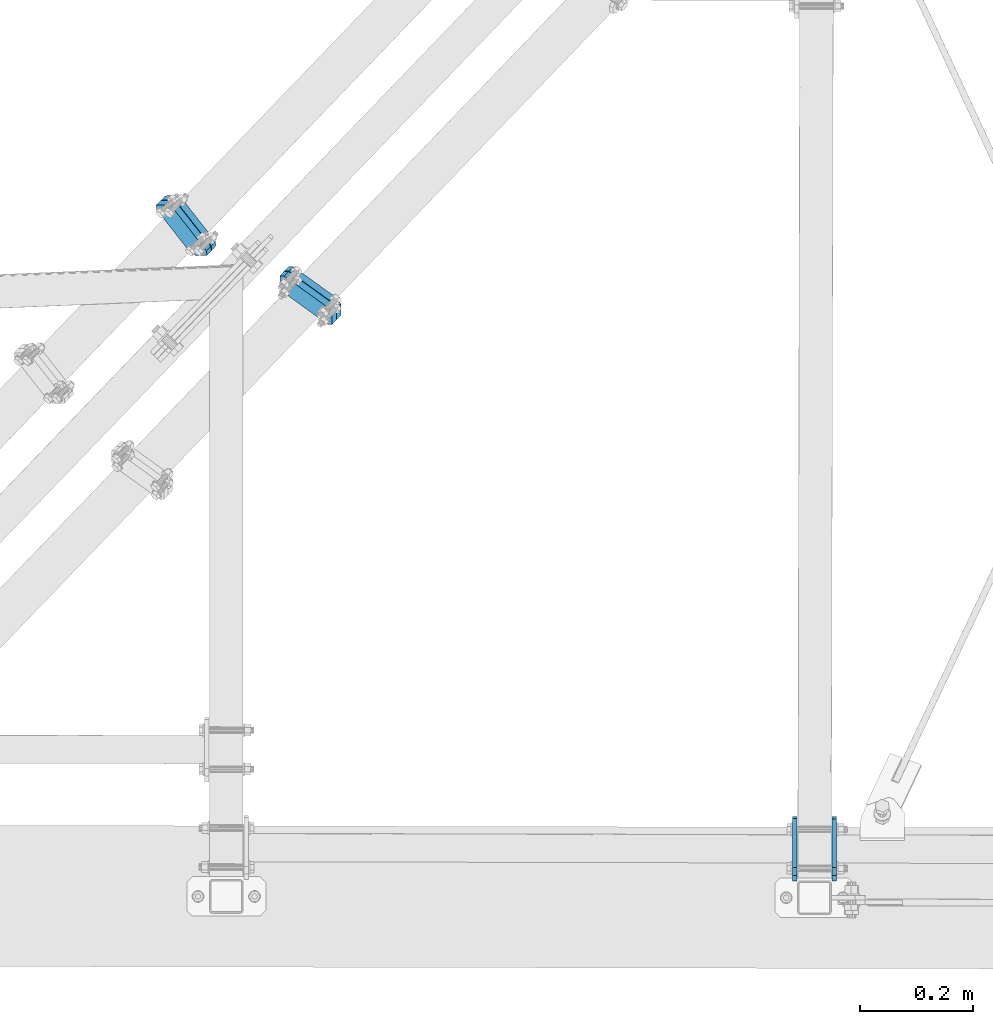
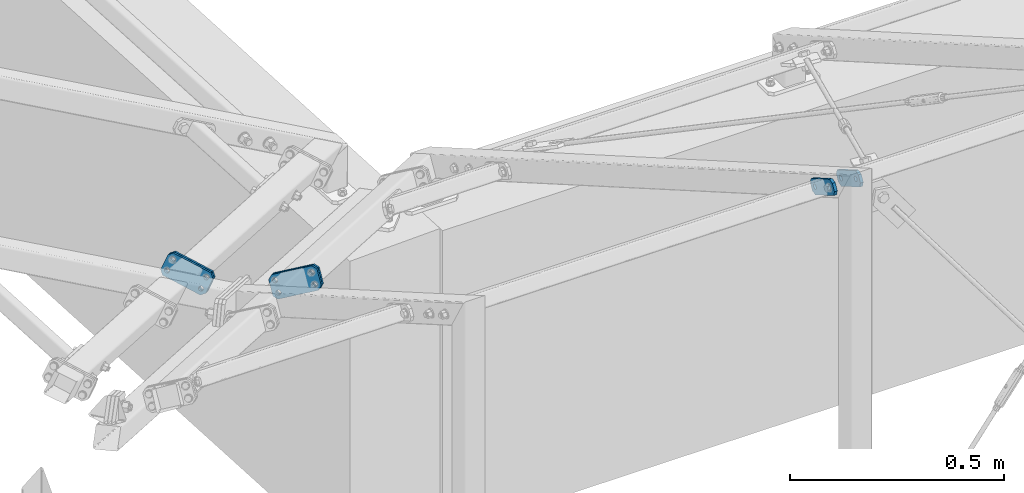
# One storey, part 26 of 288: 6 plates, 44 openings.
"""IFC2X3 building model written with IfcOpenShell, lengths in millimetres."""

from ifc_helpers import new_model, entity, si_unit, converted_unit, point, frame, frame_2d, origin, origin_with_axes, place, context, project, spatial, polyline, circle_curve, line_curve, trimmed, segment, composite_curve, circle, outline, extrude, material, layer, layer_set, element, save


model = new_model("IFC2X3")

# Units and contexts
model_context = context("Model", 3, precision=1e-09, world=origin_with_axes())
ifc_project = project(units=[si_unit("LENGTHUNIT", "METRE", prefix="MILLI"), si_unit("AREAUNIT", "SQUARE_METRE"), si_unit("VOLUMEUNIT", "CUBIC_METRE"), converted_unit("PLANEANGLEUNIT", "DEGREE", entity("IfcPlaneAngleMeasure", 0.01745329), si_unit("PLANEANGLEUNIT", "RADIAN"), dimensions=[0, 0, 0, 0, 0, 0, 0])], contexts=[model_context])

# Site, building, storey
site_placement = place(None, origin_with_axes())
site = spatial("IfcSite", under=ifc_project, at=site_placement, Name="Remont ?wietlik?w nad MC w NCPP w Opolu", CompositionType="ELEMENT")
building_placement = place(site_placement, origin_with_axes())
building = spatial("IfcBuilding", under=site, at=building_placement, Name="Konstrukcja 1", CompositionType="ELEMENT")
storey_placement = place(building_placement, origin_with_axes())
storey = spatial("IfcBuildingStorey", under=building, at=storey_placement, Name="Default Storey", CompositionType="ELEMENT", Elevation=0.0)

# Plate, openings
ifc_material = material(Name="S235")
ifc_layer_1 = layer(ifc_material, 8.0)
ifc_layer_set_1 = layer_set([ifc_layer_1], Name="S235")
plate_1_placement = place(None, frame((1994.145350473, -104.788973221, 1232.698882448), z_axis=(0.999997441, -0.002262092, 1.05e-07), x_axis=(0.001959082, 0.866023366, -0.499999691)))
plate_1 = element("IfcPlate", 1, at=plate_1_placement, inside=storey, material=ifc_layer_set_1, Name="-", ObjectType="-", context=model_context, shape_type="SweptSolid", body=[
    extrude(outline(polyline([(0.0, 0.0), (120.0, 0.0), (120.0, 40.0), (0.0, 40.0), (0.0, 0.0)])), origin_with_axes(), (0.0, 0.0, 1.0), 8.0),
])
opening_1_placement = place(plate_1_placement, frame((0.0, 0.0, -0.01), z_axis=(0.0, 0.0, 1.0), x_axis=(1.0, 0.0, 0.0)))
element("IfcOpeningElement", 2, at=opening_1_placement, cuts=plate_1, ObjectType="Opening", context=model_context, shape_type="SweptSolid", body=[
    extrude(outline(composite_curve([segment(trimmed(line_curve((0.0, 40.0), (0.0, -1.0), 10.0), [point((0.0, 40.0))], [point((0.0, 30.0))], True, "CARTESIAN"), True, "CONTINUOUS"), segment(trimmed(circle_curve(frame_2d((10.0, 30.0), x_axis=(-1.0, 0.0)), 10.0), [point((0.0, 30.0))], [point((10.0, 40.0))], False, "CARTESIAN"), True, "CONTINUOUS"), segment(trimmed(line_curve((10.0, 40.0), (-1.0, 0.0), 10.0), [point((10.0, 40.0))], [point((0.0, 40.0))], True, "CARTESIAN"), True, "CONTINUOUS")], self_intersect=False)), origin(), (0.0, 0.0, 1.0), 8.02),
])
opening_2_placement = place(plate_1_placement, frame((0.0, 0.0, -0.01), z_axis=(0.0, 0.0, 1.0), x_axis=(1.0, 0.0, 0.0)))
element("IfcOpeningElement", 3, at=opening_2_placement, cuts=plate_1, ObjectType="Opening", context=model_context, shape_type="SweptSolid", body=[
    extrude(outline(composite_curve([segment(trimmed(line_curve((0.0, 0.0), (1.0, 0.0), 10.0), [point((0.0, 0.0))], [point((10.0, 0.0))], True, "CARTESIAN"), True, "CONTINUOUS"), segment(trimmed(circle_curve(frame_2d((10.0, 10.0), x_axis=(-1.0, 0.0)), 10.0), [point((10.0, 0.0))], [point((0.0, 10.0))], False, "CARTESIAN"), True, "CONTINUOUS"), segment(trimmed(line_curve((0.0, 10.0), (0.0, -1.0), 10.0), [point((0.0, 10.0))], [point((0.0, 0.0))], True, "CARTESIAN"), True, "CONTINUOUS")], self_intersect=False)), origin(), (0.0, 0.0, 1.0), 8.02),
])
opening_3_placement = place(plate_1_placement, frame((0.0, 0.0, -0.01), z_axis=(0.0, 0.0, 1.0), x_axis=(1.0, 0.0, 0.0)))
element("IfcOpeningElement", 4, at=opening_3_placement, cuts=plate_1, ObjectType="Opening", context=model_context, shape_type="SweptSolid", body=[
    extrude(outline(composite_curve([segment(trimmed(line_curve((120.0, 40.0), (-1.0, 0.0), 10.0), [point((120.0, 40.0))], [point((110.0, 40.0))], True, "CARTESIAN"), True, "CONTINUOUS"), segment(trimmed(circle_curve(frame_2d((110.0, 30.0), x_axis=(-1.0, 0.0)), 10.0), [point((110.0, 40.0))], [point((120.0, 30.0))], False, "CARTESIAN"), True, "CONTINUOUS"), segment(trimmed(line_curve((120.0, 30.0), (0.0, 1.0), 10.0), [point((120.0, 30.0))], [point((120.0, 40.0))], True, "CARTESIAN"), True, "CONTINUOUS")], self_intersect=False)), origin(), (0.0, 0.0, 1.0), 8.02),
])
opening_4_placement = place(plate_1_placement, frame((0.0, 0.0, -0.01), z_axis=(0.0, 0.0, 1.0), x_axis=(1.0, 0.0, 0.0)))
element("IfcOpeningElement", 5, at=opening_4_placement, cuts=plate_1, ObjectType="Opening", context=model_context, shape_type="SweptSolid", body=[
    extrude(outline(composite_curve([segment(trimmed(line_curve((120.0, 0.0), (0.0, 1.0), 10.0), [point((120.0, 0.0))], [point((120.0, 10.0))], True, "CARTESIAN"), True, "CONTINUOUS"), segment(trimmed(circle_curve(frame_2d((110.0, 10.0), x_axis=(-1.0, 0.0)), 10.0), [point((120.0, 10.0))], [point((110.0, 0.0))], False, "CARTESIAN"), True, "CONTINUOUS"), segment(trimmed(line_curve((110.0, 0.0), (1.0, 0.0), 10.0), [point((110.0, 0.0))], [point((120.0, 0.0))], True, "CARTESIAN"), True, "CONTINUOUS")], self_intersect=False)), origin(), (0.0, 0.0, 1.0), 8.02),
])
opening_5_placement = place(plate_1_placement, frame((60.0, 20.0, 8.5), z_axis=(0.0, 0.0, -1.0), x_axis=(-1.0, 0.0, 0.0)))
element("IfcOpeningElement", 6, at=opening_5_placement, cuts=plate_1, ObjectType="Opening", context=model_context, shape_type="SweptSolid", body=[
    extrude(circle(Radius=7.001, at=frame_2d((40.0, 0.0), x_axis=(1.0, 0.0))), origin(), (0.0, 0.0, 1.0), 9.0),
])
opening_6_placement = place(plate_1_placement, frame((60.0, 20.0, 8.5), z_axis=(0.0, 0.0, -1.0), x_axis=(-1.0, 0.0, 0.0)))
element("IfcOpeningElement", 7, at=opening_6_placement, cuts=plate_1, ObjectType="Opening", context=model_context, shape_type="SweptSolid", body=[
    extrude(circle(Radius=7.001, at=frame_2d((-40.0, 0.0), x_axis=(1.0, 0.0))), origin(), (0.0, 0.0, 1.0), 9.0),
])

plate_2_placement = place(None, frame((1924.145379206, -104.630772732, 1232.698621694), z_axis=(0.999997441, -0.002262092, 1.05e-07), x_axis=(0.001959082, 0.866023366, -0.499999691)))
plate_2 = element("IfcPlate", 8, at=plate_2_placement, inside=storey, material=ifc_layer_set_1, Name="-", ObjectType="-", context=model_context, shape_type="SweptSolid", body=[
    extrude(outline(polyline([(0.0, 0.0), (120.0, 0.0), (120.0, 40.0), (0.0, 40.0), (0.0, 0.0)])), origin_with_axes(), (0.0, 0.0, 1.0), 8.0),
])
opening_7_placement = place(plate_2_placement, frame((0.0, 0.0, -0.01), z_axis=(0.0, 0.0, 1.0), x_axis=(1.0, 0.0, 0.0)))
element("IfcOpeningElement", 9, at=opening_7_placement, cuts=plate_2, ObjectType="Opening", context=model_context, shape_type="SweptSolid", body=[
    extrude(outline(composite_curve([segment(trimmed(line_curve((0.0, 40.0), (0.0, -1.0), 10.0), [point((0.0, 40.0))], [point((0.0, 30.0))], True, "CARTESIAN"), True, "CONTINUOUS"), segment(trimmed(circle_curve(frame_2d((10.0, 30.0), x_axis=(-1.0, 0.0)), 10.0), [point((0.0, 30.0))], [point((10.0, 40.0))], False, "CARTESIAN"), True, "CONTINUOUS"), segment(trimmed(line_curve((10.0, 40.0), (-1.0, 0.0), 10.0), [point((10.0, 40.0))], [point((0.0, 40.0))], True, "CARTESIAN"), True, "CONTINUOUS")], self_intersect=False)), origin(), (0.0, 0.0, 1.0), 8.02),
])
opening_8_placement = place(plate_2_placement, frame((0.0, 0.0, -0.01), z_axis=(0.0, 0.0, 1.0), x_axis=(1.0, 0.0, 0.0)))
element("IfcOpeningElement", 10, at=opening_8_placement, cuts=plate_2, ObjectType="Opening", context=model_context, shape_type="SweptSolid", body=[
    extrude(outline(composite_curve([segment(trimmed(line_curve((0.0, 0.0), (1.0, 0.0), 10.0), [point((0.0, 0.0))], [point((10.0, 0.0))], True, "CARTESIAN"), True, "CONTINUOUS"), segment(trimmed(circle_curve(frame_2d((10.0, 10.0), x_axis=(-1.0, 0.0)), 10.0), [point((10.0, 0.0))], [point((0.0, 10.0))], False, "CARTESIAN"), True, "CONTINUOUS"), segment(trimmed(line_curve((0.0, 10.0), (0.0, -1.0), 10.0), [point((0.0, 10.0))], [point((0.0, 0.0))], True, "CARTESIAN"), True, "CONTINUOUS")], self_intersect=False)), origin(), (0.0, 0.0, 1.0), 8.02),
])
opening_9_placement = place(plate_2_placement, frame((0.0, 0.0, -0.01), z_axis=(0.0, 0.0, 1.0), x_axis=(1.0, 0.0, 0.0)))
element("IfcOpeningElement", 11, at=opening_9_placement, cuts=plate_2, ObjectType="Opening", context=model_context, shape_type="SweptSolid", body=[
    extrude(outline(composite_curve([segment(trimmed(line_curve((120.0, 40.0), (-1.0, 0.0), 10.0), [point((120.0, 40.0))], [point((110.0, 40.0))], True, "CARTESIAN"), True, "CONTINUOUS"), segment(trimmed(circle_curve(frame_2d((110.0, 30.0), x_axis=(-1.0, 0.0)), 10.0), [point((110.0, 40.0))], [point((120.0, 30.0))], False, "CARTESIAN"), True, "CONTINUOUS"), segment(trimmed(line_curve((120.0, 30.0), (0.0, 1.0), 10.0), [point((120.0, 30.0))], [point((120.0, 40.0))], True, "CARTESIAN"), True, "CONTINUOUS")], self_intersect=False)), origin(), (0.0, 0.0, 1.0), 8.02),
])
opening_10_placement = place(plate_2_placement, frame((0.0, 0.0, -0.01), z_axis=(0.0, 0.0, 1.0), x_axis=(1.0, 0.0, 0.0)))
element("IfcOpeningElement", 12, at=opening_10_placement, cuts=plate_2, ObjectType="Opening", context=model_context, shape_type="SweptSolid", body=[
    extrude(outline(composite_curve([segment(trimmed(line_curve((120.0, 0.0), (0.0, 1.0), 10.0), [point((120.0, 0.0))], [point((120.0, 10.0))], True, "CARTESIAN"), True, "CONTINUOUS"), segment(trimmed(circle_curve(frame_2d((110.0, 10.0), x_axis=(-1.0, 0.0)), 10.0), [point((120.0, 10.0))], [point((110.0, 0.0))], False, "CARTESIAN"), True, "CONTINUOUS"), segment(trimmed(line_curve((110.0, 0.0), (1.0, 0.0), 10.0), [point((110.0, 0.0))], [point((120.0, 0.0))], True, "CARTESIAN"), True, "CONTINUOUS")], self_intersect=False)), origin(), (0.0, 0.0, 1.0), 8.02),
])
opening_11_placement = place(plate_2_placement, frame((60.0, 20.000292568, 8.5), z_axis=(0.0, 0.0, -1.0), x_axis=(-1.0, 0.0, 0.0)))
element("IfcOpeningElement", 13, at=opening_11_placement, cuts=plate_2, ObjectType="Opening", context=model_context, shape_type="SweptSolid", body=[
    extrude(circle(Radius=7.001, at=frame_2d((40.0, 0.0), x_axis=(1.0, 0.0))), origin(), (0.0, 0.0, 1.0), 9.0),
])
opening_12_placement = place(plate_2_placement, frame((60.0, 20.000292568, 8.5), z_axis=(0.0, 0.0, -1.0), x_axis=(-1.0, 0.0, 0.0)))
element("IfcOpeningElement", 14, at=opening_12_placement, cuts=plate_2, ObjectType="Opening", context=model_context, shape_type="SweptSolid", body=[
    extrude(circle(Radius=7.001, at=frame_2d((-40.0, 0.0), x_axis=(1.0, 0.0))), origin(), (0.0, 0.0, 1.0), 9.0),
])

ifc_layer_2 = layer(ifc_material, 12.0)
ifc_layer_set_2 = layer_set([ifc_layer_2], Name="S235")
plate_3_placement = place(None, frame((800.686346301, 1105.364942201, 674.696425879), z_axis=(0.639589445, 0.665373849, -0.384971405), x_axis=(0.499581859, 0.020836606, 0.866016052)))
plate_3 = element("IfcPlate", 15, at=plate_3_placement, inside=storey, material=ifc_layer_set_2, Name="Endplate#1", ObjectType="Endplate#1", context=model_context, shape_type="SweptSolid", body=[
    extrude(outline(polyline([(0.0, 0.0), (60.0, 0.0), (60.0, 120.0), (0.0, 120.0), (0.0, 0.0)])), origin_with_axes(), (0.0, 0.0, 1.0), 12.0),
])
opening_13_placement = place(plate_3_placement, frame((0.0, 0.0, -0.01), z_axis=(0.0, 0.0, 1.0), x_axis=(1.0, 0.0, 0.0)))
element("IfcOpeningElement", 16, at=opening_13_placement, cuts=plate_3, ObjectType="Opening", context=model_context, shape_type="SweptSolid", body=[
    extrude(outline(composite_curve([segment(trimmed(line_curve((60.0, 120.0), (-1.0, 0.0), 10.0), [point((60.0, 120.0))], [point((50.0, 120.0))], True, "CARTESIAN"), True, "CONTINUOUS"), segment(trimmed(circle_curve(frame_2d((50.0, 110.0), x_axis=(-1.0, 0.0)), 10.0), [point((50.0, 120.0))], [point((60.0, 110.0))], False, "CARTESIAN"), True, "CONTINUOUS"), segment(trimmed(line_curve((60.0, 110.0), (0.0, 1.0), 10.0), [point((60.0, 110.0))], [point((60.0, 120.0))], True, "CARTESIAN"), True, "CONTINUOUS")], self_intersect=False)), origin(), (0.0, 0.0, 1.0), 12.02),
])
opening_14_placement = place(plate_3_placement, frame((0.0, 0.0, -0.01), z_axis=(0.0, 0.0, 1.0), x_axis=(1.0, 0.0, 0.0)))
element("IfcOpeningElement", 17, at=opening_14_placement, cuts=plate_3, ObjectType="Opening", context=model_context, shape_type="SweptSolid", body=[
    extrude(outline(composite_curve([segment(trimmed(line_curve((0.0, 0.0), (1.0, 0.0), 10.0), [point((0.0, 0.0))], [point((10.0, 0.0))], True, "CARTESIAN"), True, "CONTINUOUS"), segment(trimmed(circle_curve(frame_2d((10.0, 10.0), x_axis=(-1.0, 0.0)), 10.0), [point((10.0, 0.0))], [point((0.0, 10.0))], False, "CARTESIAN"), True, "CONTINUOUS"), segment(trimmed(line_curve((0.0, 10.0), (0.0, -1.0), 10.0), [point((0.0, 10.0))], [point((0.0, 0.0))], True, "CARTESIAN"), True, "CONTINUOUS")], self_intersect=False)), origin(), (0.0, 0.0, 1.0), 12.02),
])
opening_15_placement = place(plate_3_placement, frame((0.0, 0.0, -0.01), z_axis=(0.0, 0.0, 1.0), x_axis=(1.0, 0.0, 0.0)))
element("IfcOpeningElement", 18, at=opening_15_placement, cuts=plate_3, ObjectType="Opening", context=model_context, shape_type="SweptSolid", body=[
    extrude(outline(composite_curve([segment(trimmed(line_curve((0.0, 120.0), (0.0, -1.0), 10.0), [point((0.0, 120.0))], [point((0.0, 110.0))], True, "CARTESIAN"), True, "CONTINUOUS"), segment(trimmed(circle_curve(frame_2d((10.0, 110.0), x_axis=(-1.0, 0.0)), 10.0), [point((0.0, 110.0))], [point((10.0, 120.0))], False, "CARTESIAN"), True, "CONTINUOUS"), segment(trimmed(line_curve((10.0, 120.0), (-1.0, 0.0), 10.0), [point((10.0, 120.0))], [point((0.0, 120.0))], True, "CARTESIAN"), True, "CONTINUOUS")], self_intersect=False)), origin(), (0.0, 0.0, 1.0), 12.02),
])
opening_16_placement = place(plate_3_placement, frame((15.0, 60.0, 12.5), z_axis=(0.0, 0.0, -1.0), x_axis=(1.0, 0.0, 0.0)))
element("IfcOpeningElement", 19, at=opening_16_placement, cuts=plate_3, ObjectType="Opening", context=model_context, shape_type="SweptSolid", body=[
    extrude(circle(Radius=6.001, at=frame_2d((0.0, 45.0), x_axis=(1.0, 0.0))), origin(), (0.0, 0.0, 1.0), 13.0),
])
opening_17_placement = place(plate_3_placement, frame((15.0, 60.0, 12.5), z_axis=(0.0, 0.0, -1.0), x_axis=(1.0, 0.0, 0.0)))
element("IfcOpeningElement", 20, at=opening_17_placement, cuts=plate_3, ObjectType="Opening", context=model_context, shape_type="SweptSolid", body=[
    extrude(circle(Radius=6.001, at=frame_2d((0.0, -45.0), x_axis=(1.0, 0.0))), origin(), (0.0, 0.0, 1.0), 13.0),
])
opening_18_placement = place(plate_3_placement, frame((45.0, 60.0, 12.5), z_axis=(0.0, 0.0, -1.0), x_axis=(1.0, 0.0, 0.0)))
element("IfcOpeningElement", 21, at=opening_18_placement, cuts=plate_3, ObjectType="Opening", context=model_context, shape_type="SweptSolid", body=[
    extrude(circle(Radius=6.001, at=frame_2d((0.0, 45.0), x_axis=(1.0, 0.0))), origin(), (0.0, 0.0, 1.0), 13.0),
])
opening_19_placement = place(plate_3_placement, frame((45.0, 60.0, 12.5), z_axis=(0.0, 0.0, -1.0), x_axis=(1.0, 0.0, 0.0)))
element("IfcOpeningElement", 22, at=opening_19_placement, cuts=plate_3, ObjectType="Opening", context=model_context, shape_type="SweptSolid", body=[
    extrude(circle(Radius=6.001, at=frame_2d((0.0, -45.0), x_axis=(1.0, 0.0))), origin(), (0.0, 0.0, 1.0), 13.0),
])
opening_20_placement = place(plate_3_placement, frame((0.0, 0.0, -0.01), z_axis=(0.0, 0.0, 1.0), x_axis=(1.0, 0.0, 0.0)))
element("IfcOpeningElement", 23, at=opening_20_placement, cuts=plate_3, ObjectType="Opening", context=model_context, shape_type="SweptSolid", body=[
    extrude(outline(composite_curve([segment(trimmed(line_curve((60.0, 0.0), (0.0, 1.0), 10.0), [point((60.0, 0.0))], [point((60.0, 10.0))], True, "CARTESIAN"), True, "CONTINUOUS"), segment(trimmed(circle_curve(frame_2d((50.0, 10.0), x_axis=(-1.0, 0.0)), 10.0), [point((60.0, 10.0))], [point((50.0, 0.0))], False, "CARTESIAN"), True, "CONTINUOUS"), segment(trimmed(line_curve((50.0, 0.0), (1.0, 0.0), 10.0), [point((50.0, 0.0))], [point((60.0, 0.0))], True, "CARTESIAN"), True, "CONTINUOUS")], self_intersect=False)), origin(), (0.0, 0.0, 1.0), 12.02),
])

plate_4_placement = place(None, frame((792.371683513, 1096.715082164, 679.701054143), z_axis=(0.639589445, 0.665373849, -0.384971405), x_axis=(0.499581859, 0.020836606, 0.866016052)))
plate_4 = element("IfcPlate", 24, at=plate_4_placement, inside=storey, material=ifc_layer_set_2, Name="Endplate#2", ObjectType="Endplate#2", context=model_context, shape_type="SweptSolid", body=[
    extrude(outline(polyline([(0.0, 0.0), (60.0, 0.0), (60.0, 120.0), (0.0, 120.0), (0.0, 0.0)])), origin_with_axes(), (0.0, 0.0, 1.0), 12.0),
])
opening_21_placement = place(plate_4_placement, frame((0.0, 0.0, -0.01), z_axis=(0.0, 0.0, 1.0), x_axis=(1.0, 0.0, 0.0)))
element("IfcOpeningElement", 25, at=opening_21_placement, cuts=plate_4, ObjectType="Opening", context=model_context, shape_type="SweptSolid", body=[
    extrude(outline(composite_curve([segment(trimmed(line_curve((60.0, 120.0), (-1.0, 0.0), 10.0), [point((60.0, 120.0))], [point((50.0, 120.0))], True, "CARTESIAN"), True, "CONTINUOUS"), segment(trimmed(circle_curve(frame_2d((50.0, 110.0), x_axis=(-1.0, 0.0)), 10.0), [point((50.0, 120.0))], [point((60.0, 110.0))], False, "CARTESIAN"), True, "CONTINUOUS"), segment(trimmed(line_curve((60.0, 110.0), (0.0, 1.0), 10.0), [point((60.0, 110.0))], [point((60.0, 120.0))], True, "CARTESIAN"), True, "CONTINUOUS")], self_intersect=False)), origin(), (0.0, 0.0, 1.0), 12.02),
])
opening_22_placement = place(plate_4_placement, frame((0.0, 0.0, -0.01), z_axis=(0.0, 0.0, 1.0), x_axis=(1.0, 0.0, 0.0)))
element("IfcOpeningElement", 26, at=opening_22_placement, cuts=plate_4, ObjectType="Opening", context=model_context, shape_type="SweptSolid", body=[
    extrude(outline(composite_curve([segment(trimmed(line_curve((0.0, 0.0), (1.0, 0.0), 10.0), [point((0.0, 0.0))], [point((10.0, 0.0))], True, "CARTESIAN"), True, "CONTINUOUS"), segment(trimmed(circle_curve(frame_2d((10.0, 10.0), x_axis=(-1.0, 0.0)), 10.0), [point((10.0, 0.0))], [point((0.0, 10.0))], False, "CARTESIAN"), True, "CONTINUOUS"), segment(trimmed(line_curve((0.0, 10.0), (0.0, -1.0), 10.0), [point((0.0, 10.0))], [point((0.0, 0.0))], True, "CARTESIAN"), True, "CONTINUOUS")], self_intersect=False)), origin(), (0.0, 0.0, 1.0), 12.02),
])
opening_23_placement = place(plate_4_placement, frame((0.0, 0.0, -0.01), z_axis=(0.0, 0.0, 1.0), x_axis=(1.0, 0.0, 0.0)))
element("IfcOpeningElement", 27, at=opening_23_placement, cuts=plate_4, ObjectType="Opening", context=model_context, shape_type="SweptSolid", body=[
    extrude(outline(composite_curve([segment(trimmed(line_curve((0.0, 120.0), (0.0, -1.0), 10.0), [point((0.0, 120.0))], [point((0.0, 110.0))], True, "CARTESIAN"), True, "CONTINUOUS"), segment(trimmed(circle_curve(frame_2d((10.0, 110.0), x_axis=(-1.0, 0.0)), 10.0), [point((0.0, 110.0))], [point((10.0, 120.0))], False, "CARTESIAN"), True, "CONTINUOUS"), segment(trimmed(line_curve((10.0, 120.0), (-1.0, 0.0), 10.0), [point((10.0, 120.0))], [point((0.0, 120.0))], True, "CARTESIAN"), True, "CONTINUOUS")], self_intersect=False)), origin(), (0.0, 0.0, 1.0), 12.02),
])
opening_24_placement = place(plate_4_placement, frame((45.0, 60.0, 12.5), z_axis=(0.0, 0.0, -1.0), x_axis=(1.0, 0.0, 0.0)))
element("IfcOpeningElement", 28, at=opening_24_placement, cuts=plate_4, ObjectType="Opening", context=model_context, shape_type="SweptSolid", body=[
    extrude(circle(Radius=6.001, at=frame_2d((0.0, 45.0), x_axis=(1.0, 0.0))), origin(), (0.0, 0.0, 1.0), 13.0),
])
opening_25_placement = place(plate_4_placement, frame((45.0, 60.0, 12.5), z_axis=(0.0, 0.0, -1.0), x_axis=(1.0, 0.0, 0.0)))
element("IfcOpeningElement", 29, at=opening_25_placement, cuts=plate_4, ObjectType="Opening", context=model_context, shape_type="SweptSolid", body=[
    extrude(circle(Radius=6.001, at=frame_2d((0.0, -45.0), x_axis=(1.0, 0.0))), origin(), (0.0, 0.0, 1.0), 13.0),
])
opening_26_placement = place(plate_4_placement, frame((15.0, 60.0, 12.5), z_axis=(0.0, 0.0, -1.0), x_axis=(1.0, 0.0, 0.0)))
element("IfcOpeningElement", 30, at=opening_26_placement, cuts=plate_4, ObjectType="Opening", context=model_context, shape_type="SweptSolid", body=[
    extrude(circle(Radius=6.001, at=frame_2d((0.0, 45.0), x_axis=(1.0, 0.0))), origin(), (0.0, 0.0, 1.0), 13.0),
])
opening_27_placement = place(plate_4_placement, frame((15.0, 60.0, 12.5), z_axis=(0.0, 0.0, -1.0), x_axis=(1.0, 0.0, 0.0)))
element("IfcOpeningElement", 31, at=opening_27_placement, cuts=plate_4, ObjectType="Opening", context=model_context, shape_type="SweptSolid", body=[
    extrude(circle(Radius=6.001, at=frame_2d((0.0, -45.0), x_axis=(1.0, 0.0))), origin(), (0.0, 0.0, 1.0), 13.0),
])
opening_28_placement = place(plate_4_placement, frame((0.0, 0.0, -0.01), z_axis=(0.0, 0.0, 1.0), x_axis=(1.0, 0.0, 0.0)))
element("IfcOpeningElement", 32, at=opening_28_placement, cuts=plate_4, ObjectType="Opening", context=model_context, shape_type="SweptSolid", body=[
    extrude(outline(composite_curve([segment(trimmed(line_curve((60.0, 0.0), (0.0, 1.0), 10.0), [point((60.0, 0.0))], [point((60.0, 10.0))], True, "CARTESIAN"), True, "CONTINUOUS"), segment(trimmed(circle_curve(frame_2d((50.0, 10.0), x_axis=(-1.0, 0.0)), 10.0), [point((60.0, 10.0))], [point((50.0, 0.0))], False, "CARTESIAN"), True, "CONTINUOUS"), segment(trimmed(line_curve((50.0, 0.0), (1.0, 0.0), 10.0), [point((50.0, 0.0))], [point((60.0, 0.0))], True, "CARTESIAN"), True, "CONTINUOUS")], self_intersect=False)), origin(), (0.0, 0.0, 1.0), 12.02),
])

plate_5_placement = place(None, frame((1116.434666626, 888.552138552, 648.985128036), z_axis=(-0.639790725, -0.665583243, 0.384274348), x_axis=(0.0, 0.499999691, 0.866025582)))
plate_5 = element("IfcPlate", 33, at=plate_5_placement, inside=storey, material=ifc_layer_set_2, Name="Endplate#1", ObjectType="Endplate#1", context=model_context, shape_type="SweptSolid", body=[
    extrude(outline(polyline([(0.0, 0.0), (60.0, 0.0), (60.0, 120.0), (0.0, 120.0), (0.0, 0.0)])), origin_with_axes(), (0.0, 0.0, 1.0), 12.0),
])
opening_29_placement = place(plate_5_placement, frame((0.0, 0.0, -0.01), z_axis=(0.0, 0.0, 1.0), x_axis=(1.0, 0.0, 0.0)))
element("IfcOpeningElement", 34, at=opening_29_placement, cuts=plate_5, ObjectType="Opening", context=model_context, shape_type="SweptSolid", body=[
    extrude(outline(composite_curve([segment(trimmed(line_curve((60.0, 0.0), (0.0, 1.0), 10.0), [point((60.0, 0.0))], [point((60.0, 10.0))], True, "CARTESIAN"), True, "CONTINUOUS"), segment(trimmed(circle_curve(frame_2d((50.0, 10.0), x_axis=(-1.0, 0.0)), 10.0), [point((60.0, 10.0))], [point((50.0, 0.0))], False, "CARTESIAN"), True, "CONTINUOUS"), segment(trimmed(line_curve((50.0, 0.0), (1.0, 0.0), 10.0), [point((50.0, 0.0))], [point((60.0, 0.0))], True, "CARTESIAN"), True, "CONTINUOUS")], self_intersect=False)), origin(), (0.0, 0.0, 1.0), 12.02),
])
opening_30_placement = place(plate_5_placement, frame((0.0, 0.0, -0.01), z_axis=(0.0, 0.0, 1.0), x_axis=(1.0, 0.0, 0.0)))
element("IfcOpeningElement", 35, at=opening_30_placement, cuts=plate_5, ObjectType="Opening", context=model_context, shape_type="SweptSolid", body=[
    extrude(outline(composite_curve([segment(trimmed(line_curve((0.0, 0.0), (1.0, 0.0), 10.0), [point((0.0, 0.0))], [point((10.0, 0.0))], True, "CARTESIAN"), True, "CONTINUOUS"), segment(trimmed(circle_curve(frame_2d((10.0, 10.0), x_axis=(-1.0, 0.0)), 10.0), [point((10.0, 0.0))], [point((0.0, 10.0))], False, "CARTESIAN"), True, "CONTINUOUS"), segment(trimmed(line_curve((0.0, 10.0), (0.0, -1.0), 10.0), [point((0.0, 10.0))], [point((0.0, 0.0))], True, "CARTESIAN"), True, "CONTINUOUS")], self_intersect=False)), origin(), (0.0, 0.0, 1.0), 12.02),
])
opening_31_placement = place(plate_5_placement, frame((0.0, 0.0, -0.01), z_axis=(0.0, 0.0, 1.0), x_axis=(1.0, 0.0, 0.0)))
element("IfcOpeningElement", 36, at=opening_31_placement, cuts=plate_5, ObjectType="Opening", context=model_context, shape_type="SweptSolid", body=[
    extrude(outline(composite_curve([segment(trimmed(line_curve((0.0, 120.0), (0.0, -1.0), 10.0), [point((0.0, 120.0))], [point((0.0, 110.0))], True, "CARTESIAN"), True, "CONTINUOUS"), segment(trimmed(circle_curve(frame_2d((10.0, 110.0), x_axis=(-1.0, 0.0)), 10.0), [point((0.0, 110.0))], [point((10.0, 120.0))], False, "CARTESIAN"), True, "CONTINUOUS"), segment(trimmed(line_curve((10.0, 120.0), (-1.0, 0.0), 10.0), [point((10.0, 120.0))], [point((0.0, 120.0))], True, "CARTESIAN"), True, "CONTINUOUS")], self_intersect=False)), origin(), (0.0, 0.0, 1.0), 12.02),
])
opening_32_placement = place(plate_5_placement, frame((0.0, 0.0, -0.01), z_axis=(0.0, 0.0, 1.0), x_axis=(1.0, 0.0, 0.0)))
element("IfcOpeningElement", 37, at=opening_32_placement, cuts=plate_5, ObjectType="Opening", context=model_context, shape_type="SweptSolid", body=[
    extrude(outline(composite_curve([segment(trimmed(line_curve((60.0, 120.0), (-1.0, 0.0), 10.0), [point((60.0, 120.0))], [point((50.0, 120.0))], True, "CARTESIAN"), True, "CONTINUOUS"), segment(trimmed(circle_curve(frame_2d((50.0, 110.0), x_axis=(-1.0, 0.0)), 10.0), [point((50.0, 120.0))], [point((60.0, 110.0))], False, "CARTESIAN"), True, "CONTINUOUS"), segment(trimmed(line_curve((60.0, 110.0), (0.0, 1.0), 10.0), [point((60.0, 110.0))], [point((60.0, 120.0))], True, "CARTESIAN"), True, "CONTINUOUS")], self_intersect=False)), origin(), (0.0, 0.0, 1.0), 12.02),
])
opening_33_placement = place(plate_5_placement, frame((45.0, 60.0, 12.5), z_axis=(0.0, 0.0, -1.0), x_axis=(1.0, 0.0, 0.0)))
element("IfcOpeningElement", 38, at=opening_33_placement, cuts=plate_5, ObjectType="Opening", context=model_context, shape_type="SweptSolid", body=[
    extrude(circle(Radius=6.001, at=frame_2d((0.0, 45.0), x_axis=(1.0, 0.0))), origin(), (0.0, 0.0, 1.0), 13.0),
])
opening_34_placement = place(plate_5_placement, frame((45.0, 60.0, 12.5), z_axis=(0.0, 0.0, -1.0), x_axis=(1.0, 0.0, 0.0)))
element("IfcOpeningElement", 39, at=opening_34_placement, cuts=plate_5, ObjectType="Opening", context=model_context, shape_type="SweptSolid", body=[
    extrude(circle(Radius=6.001, at=frame_2d((0.0, -45.0), x_axis=(1.0, 0.0))), origin(), (0.0, 0.0, 1.0), 13.0),
])
opening_35_placement = place(plate_5_placement, frame((15.0, 60.0, 12.5), z_axis=(0.0, 0.0, -1.0), x_axis=(1.0, 0.0, 0.0)))
element("IfcOpeningElement", 40, at=opening_35_placement, cuts=plate_5, ObjectType="Opening", context=model_context, shape_type="SweptSolid", body=[
    extrude(circle(Radius=6.001, at=frame_2d((0.0, 45.0), x_axis=(1.0, 0.0))), origin(), (0.0, 0.0, 1.0), 13.0),
])
opening_36_placement = place(plate_5_placement, frame((15.0, 60.0, 12.5), z_axis=(0.0, 0.0, -1.0), x_axis=(1.0, 0.0, 0.0)))
element("IfcOpeningElement", 41, at=opening_36_placement, cuts=plate_5, ObjectType="Opening", context=model_context, shape_type="SweptSolid", body=[
    extrude(circle(Radius=6.001, at=frame_2d((0.0, -45.0), x_axis=(1.0, 0.0))), origin(), (0.0, 0.0, 1.0), 13.0),
])

plate_6_placement = place(None, frame((1124.75194605, 897.204720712, 643.989561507), z_axis=(-0.639790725, -0.665583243, 0.384274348), x_axis=(0.0, 0.499999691, 0.866025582)))
plate_6 = element("IfcPlate", 42, at=plate_6_placement, inside=storey, material=ifc_layer_set_2, Name="Endplate#2", ObjectType="Endplate#2", context=model_context, shape_type="SweptSolid", body=[
    extrude(outline(polyline([(0.0, 0.0), (60.0, 0.0), (60.0, 120.0), (0.0, 120.0), (0.0, 0.0)])), origin_with_axes(), (0.0, 0.0, 1.0), 12.0),
])
opening_37_placement = place(plate_6_placement, frame((0.0, 0.0, -0.01), z_axis=(0.0, 0.0, 1.0), x_axis=(1.0, 0.0, 0.0)))
element("IfcOpeningElement", 43, at=opening_37_placement, cuts=plate_6, ObjectType="Opening", context=model_context, shape_type="SweptSolid", body=[
    extrude(outline(composite_curve([segment(trimmed(line_curve((60.0, 0.0), (0.0, 1.0), 10.0), [point((60.0, 0.0))], [point((60.0, 10.0))], True, "CARTESIAN"), True, "CONTINUOUS"), segment(trimmed(circle_curve(frame_2d((50.0, 10.0), x_axis=(-1.0, 0.0)), 10.0), [point((60.0, 10.0))], [point((50.0, 0.0))], False, "CARTESIAN"), True, "CONTINUOUS"), segment(trimmed(line_curve((50.0, 0.0), (1.0, 0.0), 10.0), [point((50.0, 0.0))], [point((60.0, 0.0))], True, "CARTESIAN"), True, "CONTINUOUS")], self_intersect=False)), origin(), (0.0, 0.0, 1.0), 12.02),
])
opening_38_placement = place(plate_6_placement, frame((0.0, 0.0, -0.01), z_axis=(0.0, 0.0, 1.0), x_axis=(1.0, 0.0, 0.0)))
element("IfcOpeningElement", 44, at=opening_38_placement, cuts=plate_6, ObjectType="Opening", context=model_context, shape_type="SweptSolid", body=[
    extrude(outline(composite_curve([segment(trimmed(line_curve((0.0, 0.0), (1.0, 0.0), 10.0), [point((0.0, 0.0))], [point((10.0, 0.0))], True, "CARTESIAN"), True, "CONTINUOUS"), segment(trimmed(circle_curve(frame_2d((10.0, 10.0), x_axis=(-1.0, 0.0)), 10.0), [point((10.0, 0.0))], [point((0.0, 10.0))], False, "CARTESIAN"), True, "CONTINUOUS"), segment(trimmed(line_curve((0.0, 10.0), (0.0, -1.0), 10.0), [point((0.0, 10.0))], [point((0.0, 0.0))], True, "CARTESIAN"), True, "CONTINUOUS")], self_intersect=False)), origin(), (0.0, 0.0, 1.0), 12.02),
])
opening_39_placement = place(plate_6_placement, frame((0.0, 0.0, -0.01), z_axis=(0.0, 0.0, 1.0), x_axis=(1.0, 0.0, 0.0)))
element("IfcOpeningElement", 45, at=opening_39_placement, cuts=plate_6, ObjectType="Opening", context=model_context, shape_type="SweptSolid", body=[
    extrude(outline(composite_curve([segment(trimmed(line_curve((0.0, 120.0), (0.0, -1.0), 10.0), [point((0.0, 120.0))], [point((0.0, 110.0))], True, "CARTESIAN"), True, "CONTINUOUS"), segment(trimmed(circle_curve(frame_2d((10.0, 110.0), x_axis=(-1.0, 0.0)), 10.0), [point((0.0, 110.0))], [point((10.0, 120.0))], False, "CARTESIAN"), True, "CONTINUOUS"), segment(trimmed(line_curve((10.0, 120.0), (-1.0, 0.0), 10.0), [point((10.0, 120.0))], [point((0.0, 120.0))], True, "CARTESIAN"), True, "CONTINUOUS")], self_intersect=False)), origin(), (0.0, 0.0, 1.0), 12.02),
])
opening_40_placement = place(plate_6_placement, frame((0.0, 0.0, -0.01), z_axis=(0.0, 0.0, 1.0), x_axis=(1.0, 0.0, 0.0)))
element("IfcOpeningElement", 46, at=opening_40_placement, cuts=plate_6, ObjectType="Opening", context=model_context, shape_type="SweptSolid", body=[
    extrude(outline(composite_curve([segment(trimmed(line_curve((60.0, 120.0), (-1.0, 0.0), 10.0), [point((60.0, 120.0))], [point((50.0, 120.0))], True, "CARTESIAN"), True, "CONTINUOUS"), segment(trimmed(circle_curve(frame_2d((50.0, 110.0), x_axis=(-1.0, 0.0)), 10.0), [point((50.0, 120.0))], [point((60.0, 110.0))], False, "CARTESIAN"), True, "CONTINUOUS"), segment(trimmed(line_curve((60.0, 110.0), (0.0, 1.0), 10.0), [point((60.0, 110.0))], [point((60.0, 120.0))], True, "CARTESIAN"), True, "CONTINUOUS")], self_intersect=False)), origin(), (0.0, 0.0, 1.0), 12.02),
])
opening_41_placement = place(plate_6_placement, frame((45.0, 60.0, 12.5), z_axis=(0.0, 0.0, -1.0), x_axis=(1.0, 0.0, 0.0)))
element("IfcOpeningElement", 47, at=opening_41_placement, cuts=plate_6, ObjectType="Opening", context=model_context, shape_type="SweptSolid", body=[
    extrude(circle(Radius=6.001, at=frame_2d((0.0, 45.0), x_axis=(1.0, 0.0))), origin(), (0.0, 0.0, 1.0), 13.0),
])
opening_42_placement = place(plate_6_placement, frame((45.0, 60.0, 12.5), z_axis=(0.0, 0.0, -1.0), x_axis=(1.0, 0.0, 0.0)))
element("IfcOpeningElement", 48, at=opening_42_placement, cuts=plate_6, ObjectType="Opening", context=model_context, shape_type="SweptSolid", body=[
    extrude(circle(Radius=6.001, at=frame_2d((0.0, -45.0), x_axis=(1.0, 0.0))), origin(), (0.0, 0.0, 1.0), 13.0),
])
opening_43_placement = place(plate_6_placement, frame((15.0, 60.0, 12.5), z_axis=(0.0, 0.0, -1.0), x_axis=(1.0, 0.0, 0.0)))
element("IfcOpeningElement", 49, at=opening_43_placement, cuts=plate_6, ObjectType="Opening", context=model_context, shape_type="SweptSolid", body=[
    extrude(circle(Radius=6.001, at=frame_2d((0.0, 45.0), x_axis=(1.0, 0.0))), origin(), (0.0, 0.0, 1.0), 13.0),
])
opening_44_placement = place(plate_6_placement, frame((15.0, 60.0, 12.5), z_axis=(0.0, 0.0, -1.0), x_axis=(1.0, 0.0, 0.0)))
element("IfcOpeningElement", 50, at=opening_44_placement, cuts=plate_6, ObjectType="Opening", context=model_context, shape_type="SweptSolid", body=[
    extrude(circle(Radius=6.001, at=frame_2d((0.0, -45.0), x_axis=(1.0, 0.0))), origin(), (0.0, 0.0, 1.0), 13.0),
])

save(model, "model.ifc")
